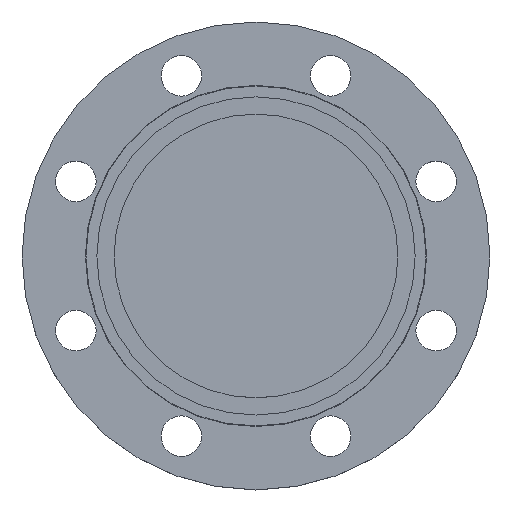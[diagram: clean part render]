
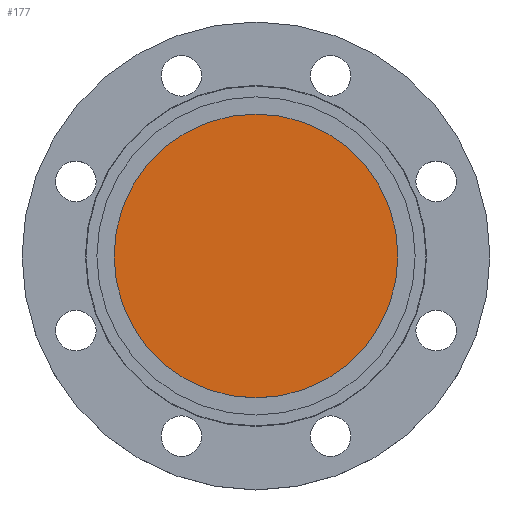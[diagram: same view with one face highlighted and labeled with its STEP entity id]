
A CAD part, top view. The second image highlights one B-rep face of the part: STEP entity #177.
In plain terms, the highlighted planar face has unit normal (0, 0, 1).
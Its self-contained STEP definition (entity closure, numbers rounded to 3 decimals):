
#6 = AXIS2_PLACEMENT_3D ( 'NONE', #998, #212, #656 ) ;
#18 = AXIS2_PLACEMENT_3D ( 'NONE', #838, #839, #841 ) ;
#146 = EDGE_CURVE ( 'NONE', #1139, #1157, #1125, .T. ) ;
#177 = ADVANCED_FACE ( 'NONE', ( #847 ), #848, .T. ) ;
#212 = DIRECTION ( 'NONE',  ( 0., 0., -1. ) ) ;
#656 = DIRECTION ( 'NONE',  ( -1., 0., 0. ) ) ;
#696 = CARTESIAN_POINT ( 'NONE',  ( 91., 0., 0. ) ) ;
#782 = EDGE_LOOP ( 'NONE', ( #1167, #1170 ) ) ;
#838 = CARTESIAN_POINT ( 'NONE',  ( 0., 0., 0. ) ) ;
#839 = DIRECTION ( 'NONE',  ( 0., 0., -1. ) ) ;
#841 = DIRECTION ( 'NONE',  ( -1., 0., 0. ) ) ;
#847 = FACE_OUTER_BOUND ( 'NONE', #782, .T. ) ;
#848 = PLANE ( 'NONE',  #1105 ) ;
#849 = CARTESIAN_POINT ( 'NONE',  ( 0., 0., 0. ) ) ;
#850 = DIRECTION ( 'NONE',  ( 0., 0., 1. ) ) ;
#864 = DIRECTION ( 'NONE',  ( 1., 0., 0. ) ) ;
#874 = CARTESIAN_POINT ( 'NONE',  ( -91., 0., 0. ) ) ;
#973 = CIRCLE ( 'NONE', #6, 91. ) ;
#998 = CARTESIAN_POINT ( 'NONE',  ( 0., 0., 0. ) ) ;
#1105 = AXIS2_PLACEMENT_3D ( 'NONE', #849, #850, #864 ) ;
#1113 = EDGE_CURVE ( 'NONE', #1157, #1139, #973, .T. ) ;
#1125 = CIRCLE ( 'NONE', #18, 91. ) ;
#1139 = VERTEX_POINT ( 'NONE', #696 ) ;
#1157 = VERTEX_POINT ( 'NONE', #874 ) ;
#1167 = ORIENTED_EDGE ( 'NONE', *, *, #1113, .F. ) ;
#1170 = ORIENTED_EDGE ( 'NONE', *, *, #146, .F. ) ;
